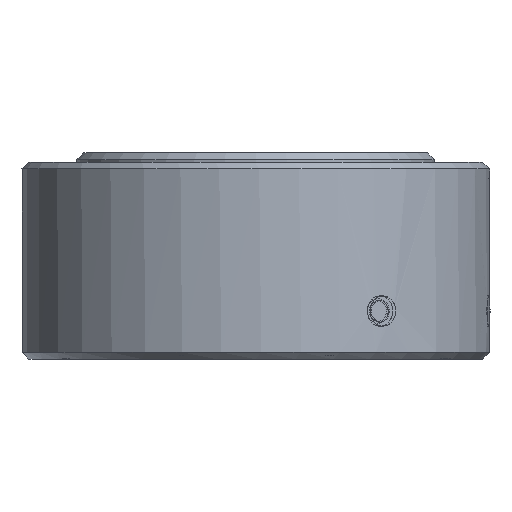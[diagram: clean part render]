
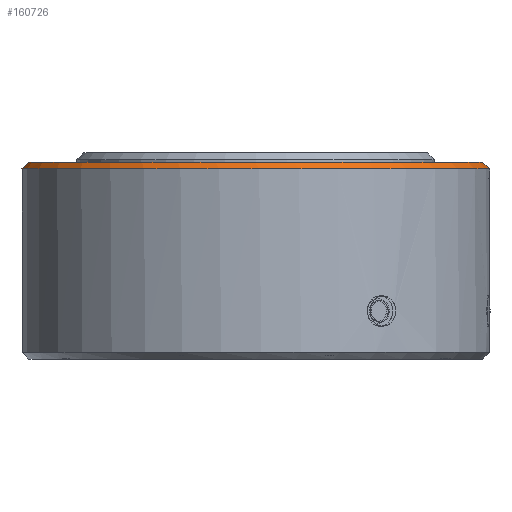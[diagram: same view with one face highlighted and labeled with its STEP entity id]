
A CAD part, front view. The second image highlights one B-rep face of the part: STEP entity #160726.
In plain terms, the highlighted conical face has half-angle 45 degrees and reference radius 16.5 mm.
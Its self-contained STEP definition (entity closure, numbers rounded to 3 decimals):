
#6777 = ORIENTED_EDGE ( 'NONE', *, *, #9016, .F. ) ;
#7991 = CARTESIAN_POINT ( 'NONE',  ( -0.25, 16.498, 14.33 ) ) ;
#9016 = EDGE_CURVE ( 'NONE', #184454, #87669, #40532, .T. ) ;
#12306 = AXIS2_PLACEMENT_3D ( 'NONE', #166205, #51620, #86262 ) ;
#18130 = CARTESIAN_POINT ( 'NONE',  ( 16.998, -0.25, 13.83 ) ) ;
#23715 = CARTESIAN_POINT ( 'NONE',  ( -0.25, 16.998, 13.83 ) ) ;
#35725 = ORIENTED_EDGE ( 'NONE', *, *, #203824, .F. ) ;
#40532 = B_SPLINE_CURVE_WITH_KNOTS ( 'NONE', 3,
 ( #23715, #87913, #153128, #7991 ),
 .UNSPECIFIED., .F., .F.,
 ( 4, 4 ),
 ( 0.005, 0.006 ),
 .UNSPECIFIED. ) ;
#42024 = VERTEX_POINT ( 'NONE', #18130 ) ;
#51620 = DIRECTION ( 'NONE',  ( 0., 0., -1. ) ) ;
#61566 = CARTESIAN_POINT ( 'NONE',  ( 0., 0., 14.33 ) ) ;
#63249 = EDGE_CURVE ( 'NONE', #42024, #184454, #180696, .T. ) ;
#65141 = CARTESIAN_POINT ( 'NONE',  ( 16.498, -0.25, 14.33 ) ) ;
#65766 = VERTEX_POINT ( 'NONE', #65141 ) ;
#66758 = CARTESIAN_POINT ( 'NONE',  ( 16.831, -0.25, 13.997 ) ) ;
#76143 = CONICAL_SURFACE ( 'NONE', #12306, 16.5, 0.785 ) ;
#86262 = DIRECTION ( 'NONE',  ( -1., 0., 0. ) ) ;
#86507 = EDGE_LOOP ( 'NONE', ( #93178, #123074, #35725, #6777 ) ) ;
#86662 = DIRECTION ( 'NONE',  ( 0., 0., -1. ) ) ;
#87669 = VERTEX_POINT ( 'NONE', #125091 ) ;
#87913 = CARTESIAN_POINT ( 'NONE',  ( -0.25, 16.831, 13.997 ) ) ;
#93178 = ORIENTED_EDGE ( 'NONE', *, *, #63249, .F. ) ;
#102027 = FACE_OUTER_BOUND ( 'NONE', #86507, .T. ) ;
#103440 = CIRCLE ( 'NONE', #130314, 16.5 ) ;
#103445 = CARTESIAN_POINT ( 'NONE',  ( 16.998, -0.25, 13.83 ) ) ;
#106368 = AXIS2_PLACEMENT_3D ( 'NONE', #183449, #86662, #136086 ) ;
#106801 = DIRECTION ( 'NONE',  ( 0., 0., 1. ) ) ;
#123074 = ORIENTED_EDGE ( 'NONE', *, *, #186409, .F. ) ;
#125091 = CARTESIAN_POINT ( 'NONE',  ( -0.25, 16.498, 14.33 ) ) ;
#130314 = AXIS2_PLACEMENT_3D ( 'NONE', #61566, #106801, #141467 ) ;
#136086 = DIRECTION ( 'NONE',  ( 1., 0., 0. ) ) ;
#141467 = DIRECTION ( 'NONE',  ( 1., 0., 0. ) ) ;
#147699 = CARTESIAN_POINT ( 'NONE',  ( 16.665, -0.25, 14.163 ) ) ;
#153128 = CARTESIAN_POINT ( 'NONE',  ( -0.25, 16.665, 14.163 ) ) ;
#159547 = B_SPLINE_CURVE_WITH_KNOTS ( 'NONE', 3,
 ( #165568, #147699, #66758, #103445 ),
 .UNSPECIFIED., .F., .F.,
 ( 4, 4 ),
 ( 0.005, 0.006 ),
 .UNSPECIFIED. ) ;
#160726 = ADVANCED_FACE ( 'NONE', ( #102027 ), #76143, .T. ) ;
#165568 = CARTESIAN_POINT ( 'NONE',  ( 16.498, -0.25, 14.33 ) ) ;
#166205 = CARTESIAN_POINT ( 'NONE',  ( 0., 0., 14.33 ) ) ;
#180696 = CIRCLE ( 'NONE', #106368, 17. ) ;
#183449 = CARTESIAN_POINT ( 'NONE',  ( 0., 0., 13.83 ) ) ;
#184454 = VERTEX_POINT ( 'NONE', #206154 ) ;
#186409 = EDGE_CURVE ( 'NONE', #65766, #42024, #159547, .T. ) ;
#203824 = EDGE_CURVE ( 'NONE', #87669, #65766, #103440, .T. ) ;
#206154 = CARTESIAN_POINT ( 'NONE',  ( -0.25, 16.998, 13.83 ) ) ;
